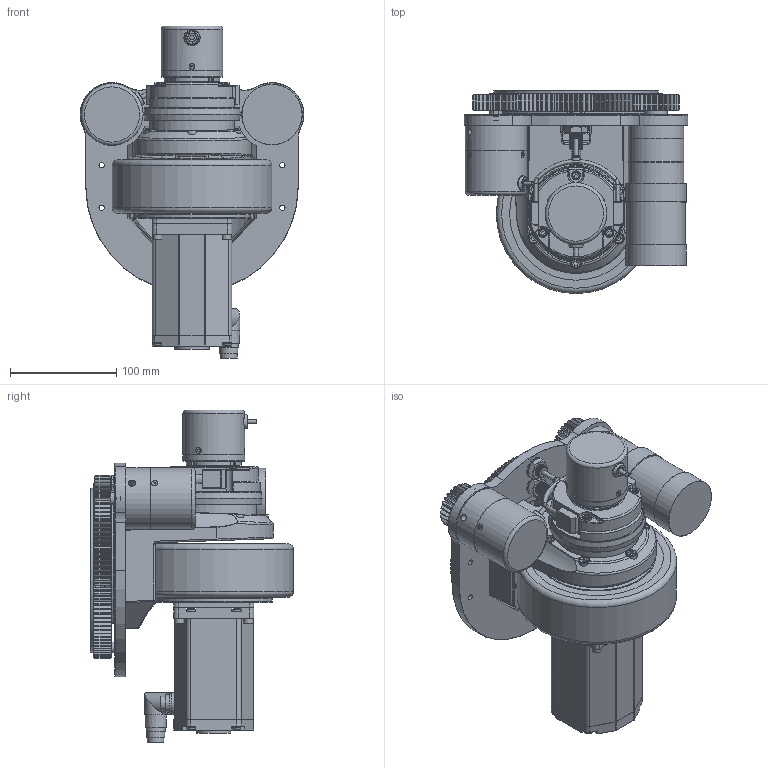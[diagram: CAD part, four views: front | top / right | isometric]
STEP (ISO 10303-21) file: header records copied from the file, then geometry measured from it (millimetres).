
FILE_DESCRIPTION (( 'STEP AP214' ), '1' );
FILE_NAME ('ZLW-190-7525-904.STEP', '2019-04-23T23:41:29', ( '' ), ( '' ), 'SwSTEP 2.0', 'SolidWorks 2016', '' );
FILE_SCHEMA (( 'AUTOMOTIVE_DESIGN' ));
Length unit declared in the file: millimetre
Products named in the file (1): ZLW-190-7525-904
Bounding box: 210.4 x 191 x 312.25 mm (x, y, z)
Surface area: 423692.5 mm2 (no closed solid volume)
Topology: 0 solids, 119 shells, 1877 faces, 6050 edges, 4222 vertices
Faces by surface type: cylinder 943, plane 470, cone 308, bspline 81, torus 65, sphere 10
Full cylindrical faces by diameter (mm): 1.5 x2, 4 x2, 4.5 x2, 4.66 x4, 4.7 x3, 5 x18, 5.1 x1, 5.54 x4, 5.61 x8, 6 x5, 7 x3, 7.53 x1, 8 x9, 8.5 x9, 9 x8, 10 x4, 11 x14, 11.7 x1, 12 x2, 13.7 x1, 14.2 x1, 15 x1, 15.6 x1, 15.7 x1, 16 x1, 17 x1, 17.8 x1, 18 x1, 20 x2, 20.5 x2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
Entity records: 101091 total; most frequent: CARTESIAN_POINT 30184, DIRECTION 10780, ORIENTED_EDGE 9061, EDGE_CURVE 5654, AXIS2_PLACEMENT_3D 4363, VERTEX_POINT 4130, CIRCLE 2566, EDGE_LOOP 2414
